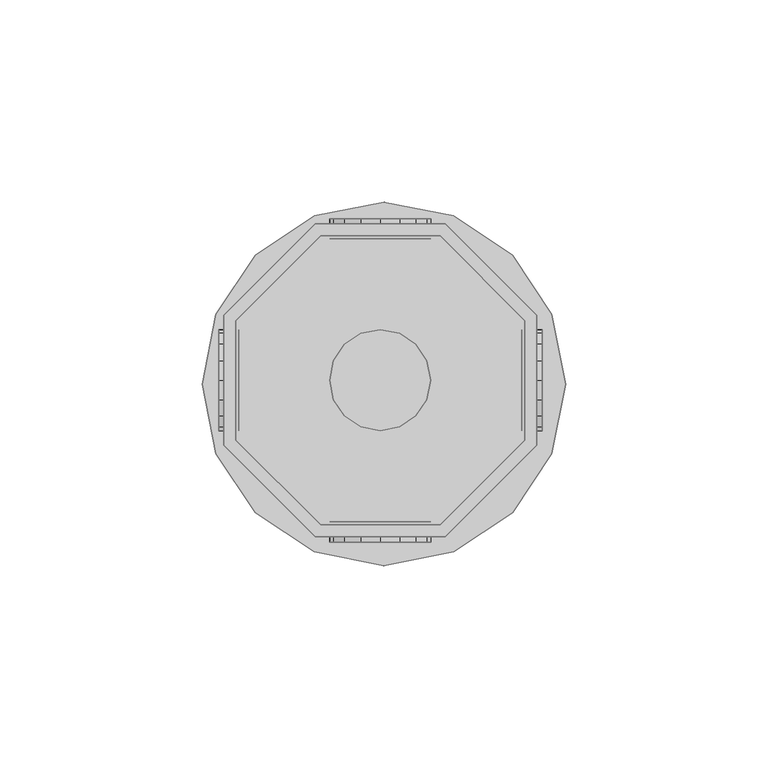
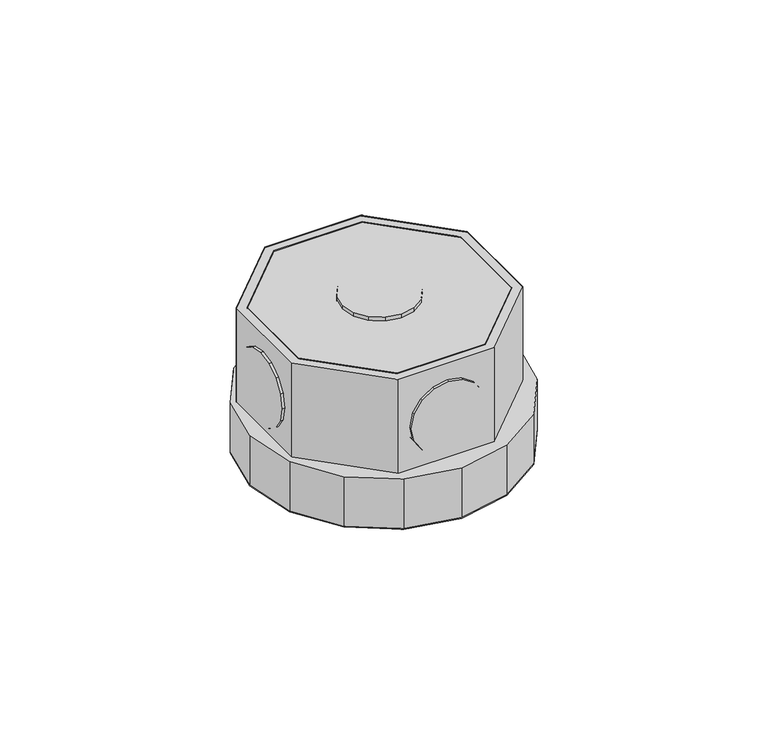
"""IFC4 building model written with IfcOpenShell, lengths in millimetres: light fixture geometry,  212341 :  212341."""

from ifc_helpers import new_model, si_unit, origin, place, context, project, spatial, triangles, source, transform, mapped, element, save


def light_fixture_5e0c478c(model_context):
    return source(origin(), model_context, "Body", "Tessellation", [
        triangles([(13964.9999176, 12407.9996063, 2924.5999741), (13935.4005615, 12407.9996063, 2975.400071), (13935.4005615, 12407.9996063, 2924.5999741), (13964.9999176, 12407.9996063, 2975.400071), (13966.1998444, 12333.4995026, 2924.5999741), (13934.0994781, 12333.4995026, 2975.400071), (13934.0994781, 12333.4995026, 2924.5999741), (13966.1998444, 12333.4995026, 2975.400071), (13914.3995178, 12386.9997253, 2975.400071), (13914.3995178, 12386.9997253, 2924.5999741), (13988.8996216, 12356.2004425, 2924.5999741), (13988.8996216, 12356.2004425, 2975.400071), (13914.3995178, 12357.4003693, 2975.400071), (13914.3995178, 12357.4003693, 2924.5999741), (13988.8996216, 12388.299646, 2924.5999741), (13988.8996216, 12388.299646, 2975.400071), (13935.4005615, 12336.5004822, 2975.400071), (13935.4005615, 12336.5004822, 2924.5999741), (13966.1998444, 12410.9994232, 2924.5999741), (13966.1998444, 12410.9994232, 2975.400071), (13964.9999176, 12336.5004822, 2924.5999741), (13964.9999176, 12336.5004822, 2975.400071), (13934.0994781, 12410.9994232, 2975.400071), (13934.0994781, 12410.9994232, 2924.5999741), (13985.8998047, 12357.4003693, 2924.5999741), (13985.8998047, 12357.4003693, 2975.400071), (13911.3997009, 12388.299646, 2975.400071), (13911.3997009, 12388.299646, 2924.5999741), (13911.3997009, 12356.2004425, 2975.400071), (13985.8998047, 12386.9997253, 2975.400071), (13985.8998047, 12386.9997253, 2924.5999741), (13911.3997009, 12356.2004425, 2924.5999741), (13914.3995178, 12357.4003693, 2972.3999634), (13935.4005615, 12336.5004822, 2972.3999634), (13964.9999176, 12336.5004822, 2972.3999634), (13985.8998047, 12357.4003693, 2972.3999634), (13985.8998047, 12386.9997253, 2972.3999634), (13964.9999176, 12407.9996063, 2972.3999634), (13935.4005615, 12407.9996063, 2972.3999634), (13914.3995178, 12386.9997253, 2972.3999634), (13911.3997009, 12388.299646, 2942.4000504), (13934.0994781, 12410.9994232, 2942.4000504), (13966.1998444, 12410.9994232, 2942.4000504), (13988.8996216, 12388.299646, 2942.4000504), (13988.8996216, 12356.2004425, 2942.4000504), (13966.1998444, 12333.4995026, 2942.4000504), (13934.0994781, 12333.4995026, 2942.4000504), (13911.3997009, 12356.2004425, 2942.4000504), (13933.7994965, 12329.7997284, 2942.4000504), (13909.4998169, 12354.1005707, 2942.4000504), (13919.2003876, 12339.5002991, 2942.4000504), (13906.1000244, 12371.2995209, 2942.4000504), (13909.4998169, 12388.5996277, 2942.4000504), (13919.2003876, 12403.1998993, 2942.4000504), (13933.7994965, 12412.90047, 2942.4000504), (13951.0996033, 12416.3002625, 2942.4000504), (13968.2997162, 12412.90047, 2942.4000504), (13992.6005585, 12388.5996277, 2942.4000504), (13982.8999878, 12403.1998993, 2942.4000504), (13951.0996033, 12326.299942, 2942.4000504), (13968.2997162, 12329.7997284, 2942.4000504), (13982.8999878, 12339.5002991, 2942.4000504), (13992.6005585, 12354.1005707, 2942.4000504), (13996.1003448, 12371.2995209, 2942.4000504), (13909.4998169, 12354.1005707, 2924.5999741), (13933.7994965, 12329.7997284, 2924.5999741), (13919.2003876, 12339.5002991, 2924.5999741), (13906.1000244, 12371.2995209, 2924.5999741), (13909.4998169, 12388.5996277, 2924.5999741), (13919.2003876, 12403.1998993, 2924.5999741), (13933.7994965, 12412.90047, 2924.5999741), (13951.0996033, 12416.3002625, 2924.5999741), (13968.2997162, 12412.90047, 2924.5999741), (13992.6005585, 12388.5996277, 2924.5999741), (13982.8999878, 12403.1998993, 2924.5999741), (13951.0996033, 12326.299942, 2924.5999741), (13968.2997162, 12329.7997284, 2924.5999741), (13982.8999878, 12339.5002991, 2924.5999741), (13992.6005585, 12354.1005707, 2924.5999741), (13996.1003448, 12371.2995209, 2924.5999741), (13938.6003662, 12412.2005127, 2952.6000092), (13945.3999512, 12412.2005127, 2945.9001274), (13941.3002014, 12412.2005127, 2948.5999626), (13937.7004211, 12412.2005127, 2957.4000069), (13950.1996582, 12412.2005127, 2944.8998978), (13938.6003662, 12412.2005127, 2962.2000046), (13955.000528, 12412.2005127, 2945.9001274), (13941.3002014, 12412.2005127, 2966.2000511), (13959.0002838, 12412.2005127, 2948.5999626), (13945.3999512, 12412.2005127, 2968.8998863), (13961.700119, 12412.2005127, 2952.6000092), (13950.1996582, 12412.2005127, 2969.900116), (13962.700058, 12412.2005127, 2957.4000069), (13955.000528, 12412.2005127, 2968.8998863), (13961.700119, 12412.2005127, 2962.2000046), (13959.0002838, 12412.2005127, 2966.2000511), (13945.3999512, 12407.1996552, 2945.9001274), (13938.6003662, 12407.1996552, 2952.6000092), (13941.3002014, 12407.1996552, 2948.5999626), (13950.1996582, 12407.1996552, 2944.8998978), (13937.7004211, 12407.1996552, 2957.4000069), (13955.000528, 12407.1996552, 2945.9001274), (13938.6003662, 12407.1996552, 2962.2000046), (13959.0002838, 12407.1996552, 2948.5999626), (13941.3002014, 12407.1996552, 2966.2000511), (13945.3999512, 12407.1996552, 2968.8998863), (13961.700119, 12407.1996552, 2952.6000092), (13950.1996582, 12407.1996552, 2969.900116), (13962.700058, 12407.1996552, 2957.4000069), (13955.000528, 12407.1996552, 2968.8998863), (13961.700119, 12407.1996552, 2962.2000046), (13959.0002838, 12407.1996552, 2966.2000511), (13938.6003662, 12337.2004395, 2952.6000092), (13945.3999512, 12337.2004395, 2945.9001274), (13941.3002014, 12337.2004395, 2948.5999626), (13937.7004211, 12337.2004395, 2957.4000069), (13950.1996582, 12337.2004395, 2944.8998978), (13938.6003662, 12337.2004395, 2962.2000046), (13955.000528, 12337.2004395, 2945.9001274), (13941.3002014, 12337.2004395, 2966.2000511), (13959.0002838, 12337.2004395, 2948.5999626), (13945.3999512, 12337.2004395, 2968.8998863), (13961.700119, 12337.2004395, 2952.6000092), (13950.1996582, 12337.2004395, 2969.900116), (13962.700058, 12337.2004395, 2957.4000069), (13955.000528, 12337.2004395, 2968.8998863), (13961.700119, 12337.2004395, 2962.2000046), (13959.0002838, 12337.2004395, 2966.2000511), (13945.3999512, 12332.1995819, 2945.9001274), (13938.6003662, 12332.1995819, 2952.6000092), (13941.3002014, 12332.1995819, 2948.5999626), (13950.1996582, 12332.1995819, 2944.8998978), (13937.7004211, 12332.1995819, 2957.4000069), (13955.000528, 12332.1995819, 2945.9001274), (13938.6003662, 12332.1995819, 2962.2000046), (13959.0002838, 12332.1995819, 2948.5999626), (13941.3002014, 12332.1995819, 2966.2000511), (13945.3999512, 12332.1995819, 2968.8998863), (13961.700119, 12332.1995819, 2952.6000092), (13950.1996582, 12332.1995819, 2969.900116), (13962.700058, 12332.1995819, 2957.4000069), (13955.000528, 12332.1995819, 2968.8998863), (13961.700119, 12332.1995819, 2962.2000046), (13959.0002838, 12332.1995819, 2966.2000511), (13915.199469, 12367.3997589, 2945.9001274), (13915.199469, 12360.7001678, 2952.6000092), (13915.199469, 12363.4000031, 2948.5999626), (13915.199469, 12372.1994659, 2944.8998978), (13915.199469, 12359.7002289, 2957.4000069), (13915.199469, 12377.0003357, 2945.9001274), (13915.199469, 12360.7001678, 2962.2000046), (13915.199469, 12381.1000854, 2948.5999626), (13915.199469, 12363.4000031, 2966.2000511), (13915.199469, 12367.3997589, 2968.8998863), (13915.199469, 12383.7999207, 2952.6000092), (13915.199469, 12372.1994659, 2969.900116), (13915.199469, 12384.6998657, 2957.4000069), (13915.199469, 12377.0003357, 2968.8998863), (13915.199469, 12383.7999207, 2962.2000046), (13915.199469, 12381.1000854, 2966.2000511), (13910.1997742, 12360.7001678, 2952.6000092), (13910.1997742, 12367.3997589, 2945.9001274), (13910.1997742, 12363.4000031, 2948.5999626), (13910.1997742, 12359.7002289, 2957.4000069), (13910.1997742, 12372.1994659, 2944.8998978), (13910.1997742, 12360.7001678, 2962.2000046), (13910.1997742, 12377.0003357, 2945.9001274), (13910.1997742, 12363.4000031, 2966.2000511), (13910.1997742, 12381.1000854, 2948.5999626), (13910.1997742, 12367.3997589, 2968.8998863), (13910.1997742, 12383.7999207, 2952.6000092), (13910.1997742, 12372.1994659, 2969.900116), (13910.1997742, 12384.6998657, 2957.4000069), (13910.1997742, 12377.0003357, 2968.8998863), (13910.1997742, 12383.7999207, 2962.2000046), (13910.1997742, 12381.1000854, 2966.2000511), (13990.1995422, 12367.3997589, 2945.9001274), (13990.1995422, 12360.7001678, 2952.6000092), (13990.1995422, 12363.4000031, 2948.5999626), (13990.1995422, 12372.1994659, 2944.8998978), (13990.1995422, 12359.7002289, 2957.4000069), (13990.1995422, 12377.0003357, 2945.9001274), (13990.1995422, 12360.7001678, 2962.2000046), (13990.1995422, 12381.1000854, 2948.5999626), (13990.1995422, 12363.4000031, 2966.2000511), (13990.1995422, 12367.3997589, 2968.8998863), (13990.1995422, 12383.7999207, 2952.6000092), (13990.1995422, 12372.1994659, 2969.900116), (13990.1995422, 12384.6998657, 2957.4000069), (13990.1995422, 12377.0003357, 2968.8998863), (13990.1995422, 12383.7999207, 2962.2000046), (13990.1995422, 12381.1000854, 2966.2000511), (13985.1998474, 12360.7001678, 2952.6000092), (13985.1998474, 12367.3997589, 2945.9001274), (13985.1998474, 12363.4000031, 2948.5999626), (13985.1998474, 12359.7002289, 2957.4000069), (13985.1998474, 12372.1994659, 2944.8998978), (13985.1998474, 12360.7001678, 2962.2000046), (13985.1998474, 12377.0003357, 2945.9001274), (13985.1998474, 12363.4000031, 2966.2000511), (13985.1998474, 12381.1000854, 2948.5999626), (13985.1998474, 12367.3997589, 2968.8998863), (13985.1998474, 12383.7999207, 2952.6000092), (13985.1998474, 12372.1994659, 2969.900116), (13985.1998474, 12384.6998657, 2957.4000069), (13985.1998474, 12377.0003357, 2968.8998863), (13985.1998474, 12383.7999207, 2962.2000046), (13985.1998474, 12381.1000854, 2966.2000511), (13945.3999512, 12360.7001678, 2976.9999733), (13938.6003662, 12367.3997589, 2976.9999733), (13941.3002014, 12363.4000031, 2976.9999733), (13937.7004211, 12372.1994659, 2976.9999733), (13950.1996582, 12359.7002289, 2976.9999733), (13938.6003662, 12377.0003357, 2976.9999733), (13955.000528, 12360.7001678, 2976.9999733), (13941.3002014, 12381.1000854, 2976.9999733), (13959.0002838, 12363.4000031, 2976.9999733), (13945.3999512, 12383.7999207, 2976.9999733), (13961.700119, 12367.3997589, 2976.9999733), (13950.1996582, 12384.6998657, 2976.9999733), (13962.700058, 12372.1994659, 2976.9999733), (13955.000528, 12383.7999207, 2976.9999733), (13961.700119, 12377.0003357, 2976.9999733), (13959.0002838, 12381.1000854, 2976.9999733), (13938.6003662, 12367.3997589, 2971.9999878), (13945.3999512, 12360.7001678, 2971.9999878), (13941.3002014, 12363.4000031, 2971.9999878), (13937.7004211, 12372.1994659, 2971.9999878), (13950.1996582, 12359.7002289, 2971.9999878), (13938.6003662, 12377.0003357, 2971.9999878), (13955.000528, 12360.7001678, 2971.9999878), (13941.3002014, 12381.1000854, 2971.9999878), (13959.0002838, 12363.4000031, 2971.9999878), (13945.3999512, 12383.7999207, 2971.9999878), (13961.700119, 12367.3997589, 2971.9999878), (13950.1996582, 12384.6998657, 2971.9999878), (13962.700058, 12372.1994659, 2971.9999878), (13955.000528, 12383.7999207, 2971.9999878), (13961.700119, 12377.0003357, 2971.9999878), (13959.0002838, 12381.1000854, 2971.9999878)], [[1, 2, 3], [2, 1, 4], [5, 6, 7], [6, 5, 8], [3, 9, 10], [9, 3, 2], [11, 8, 5], [8, 11, 12], [10, 13, 14], [13, 10, 9], [15, 12, 11], [12, 15, 16], [14, 17, 18], [17, 14, 13], [19, 16, 15], [16, 19, 20], [17, 21, 18], [21, 17, 22], [23, 19, 24], [19, 23, 20], [22, 25, 21], [25, 22, 26], [27, 24, 28], [24, 27, 23], [6, 13, 29], [29, 13, 27], [27, 13, 9], [27, 9, 23], [23, 9, 2], [23, 2, 4], [23, 4, 20], [20, 4, 30], [8, 17, 6], [6, 17, 13], [17, 8, 22], [12, 22, 8], [22, 12, 26], [30, 26, 12], [16, 30, 12], [20, 30, 16], [30, 1, 31], [1, 30, 4], [6, 32, 7], [32, 6, 29], [32, 14, 7], [28, 14, 32], [14, 28, 10], [24, 10, 28], [10, 24, 3], [1, 3, 24], [19, 1, 24], [31, 1, 19], [7, 18, 5], [14, 18, 7], [5, 18, 21], [5, 21, 11], [11, 21, 25], [11, 25, 31], [11, 31, 15], [15, 31, 19], [26, 31, 25], [31, 26, 30], [29, 28, 32], [28, 29, 27], [17, 33, 34], [33, 17, 13], [35, 17, 34], [17, 35, 22], [36, 22, 35], [22, 36, 26], [37, 26, 36], [26, 37, 30], [38, 30, 37], [30, 38, 4], [2, 38, 39], [38, 2, 4], [17, 9, 13], [9, 17, 22], [9, 22, 2], [2, 22, 26], [2, 26, 4], [4, 26, 30], [13, 40, 33], [40, 13, 9], [40, 34, 33], [35, 34, 40], [35, 40, 39], [35, 39, 36], [36, 39, 38], [36, 38, 37], [9, 39, 40], [39, 9, 2], [24, 41, 28], [41, 24, 42], [19, 42, 24], [42, 19, 43], [44, 19, 15], [19, 44, 43], [45, 15, 11], [15, 45, 44], [46, 11, 5], [11, 46, 45], [47, 5, 7], [5, 47, 46], [32, 47, 7], [47, 32, 48], [28, 48, 32], [48, 28, 41], [49, 50, 51], [48, 50, 49], [50, 48, 52], [41, 52, 48], [52, 41, 53], [53, 41, 54], [42, 54, 41], [54, 42, 55], [55, 42, 43], [55, 43, 56], [56, 43, 57], [57, 43, 44], [57, 44, 58], [57, 58, 59], [47, 49, 60], [49, 47, 48], [47, 60, 46], [61, 46, 60], [46, 61, 62], [46, 62, 45], [45, 62, 63], [44, 45, 63], [44, 63, 64], [44, 64, 58], [65, 66, 67], [66, 65, 32], [68, 32, 65], [32, 68, 28], [28, 68, 69], [70, 28, 69], [28, 70, 24], [71, 24, 70], [19, 24, 71], [19, 71, 72], [73, 19, 72], [19, 73, 15], [74, 15, 73], [74, 73, 75], [76, 66, 7], [32, 7, 66], [5, 76, 7], [76, 5, 77], [77, 5, 78], [11, 78, 5], [78, 11, 79], [79, 11, 15], [79, 15, 80], [80, 15, 74], [57, 75, 73], [75, 57, 59], [56, 73, 72], [73, 56, 57], [55, 72, 71], [72, 55, 56], [54, 71, 70], [71, 54, 55], [53, 70, 69], [70, 53, 54], [52, 69, 68], [69, 52, 53], [50, 68, 65], [68, 50, 52], [51, 65, 67], [65, 51, 50], [66, 51, 67], [51, 66, 49], [76, 49, 66], [49, 76, 60], [77, 60, 76], [60, 77, 61], [78, 61, 77], [61, 78, 62], [79, 62, 78], [62, 79, 63], [80, 63, 79], [63, 80, 64], [75, 58, 74], [58, 75, 59], [74, 64, 80], [64, 74, 58], [81, 82, 83], [82, 81, 84], [85, 82, 84], [85, 84, 86], [87, 85, 86], [87, 86, 88], [87, 88, 89], [89, 88, 90], [89, 90, 91], [91, 90, 92], [91, 92, 93], [93, 92, 94], [93, 94, 95], [95, 94, 96], [97, 98, 99], [98, 97, 100], [101, 98, 100], [101, 100, 102], [103, 101, 102], [103, 102, 104], [103, 104, 105], [105, 104, 106], [106, 104, 107], [106, 107, 108], [108, 107, 109], [108, 109, 110], [110, 109, 111], [110, 111, 112], [87, 104, 102], [104, 87, 89], [85, 102, 100], [102, 85, 87], [82, 100, 97], [100, 82, 85], [83, 97, 99], [97, 83, 82], [98, 83, 99], [83, 98, 81], [101, 81, 98], [81, 101, 84], [103, 84, 101], [84, 103, 86], [105, 86, 103], [86, 105, 88], [106, 88, 105], [88, 106, 90], [108, 90, 106], [90, 108, 92], [110, 92, 108], [92, 110, 94], [112, 94, 110], [94, 112, 96], [95, 112, 111], [112, 95, 96], [93, 111, 109], [111, 93, 95], [89, 107, 104], [107, 89, 91], [91, 109, 107], [109, 91, 93], [113, 114, 115], [114, 113, 116], [117, 114, 116], [117, 116, 118], [119, 117, 118], [119, 118, 120], [119, 120, 121], [121, 120, 122], [121, 122, 123], [123, 122, 124], [123, 124, 125], [125, 124, 126], [125, 126, 127], [127, 126, 128], [129, 130, 131], [130, 129, 132], [133, 130, 132], [133, 132, 134], [135, 133, 134], [135, 134, 136], [135, 136, 137], [137, 136, 138], [138, 136, 139], [138, 139, 140], [140, 139, 141], [140, 141, 142], [142, 141, 143], [142, 143, 144], [119, 136, 134], [136, 119, 121], [117, 134, 132], [134, 117, 119], [114, 132, 129], [132, 114, 117], [115, 129, 131], [129, 115, 114], [130, 115, 131], [115, 130, 113], [133, 113, 130], [113, 133, 116], [135, 116, 133], [116, 135, 118], [137, 118, 135], [118, 137, 120], [138, 120, 137], [120, 138, 122], [140, 122, 138], [122, 140, 124], [142, 124, 140], [124, 142, 126], [144, 126, 142], [126, 144, 128], [127, 144, 143], [144, 127, 128], [125, 143, 141], [143, 125, 127], [121, 139, 136], [139, 121, 123], [123, 141, 139], [141, 123, 125], [145, 146, 147], [146, 145, 148], [149, 146, 148], [149, 148, 150], [151, 149, 150], [151, 150, 152], [151, 152, 153], [153, 152, 154], [154, 152, 155], [154, 155, 156], [156, 155, 157], [156, 157, 158], [158, 157, 159], [158, 159, 160], [161, 162, 163], [162, 161, 164], [165, 162, 164], [165, 164, 166], [167, 165, 166], [167, 166, 168], [169, 167, 168], [169, 168, 170], [169, 170, 171], [171, 170, 172], [171, 172, 173], [173, 172, 174], [173, 174, 175], [175, 174, 176], [158, 176, 174], [176, 158, 160], [156, 174, 172], [174, 156, 158], [154, 172, 170], [172, 154, 156], [153, 170, 168], [170, 153, 154], [151, 168, 166], [168, 151, 153], [149, 166, 164], [166, 149, 151], [146, 164, 161], [164, 146, 149], [147, 161, 163], [161, 147, 146], [162, 147, 163], [147, 162, 145], [165, 145, 162], [145, 165, 148], [167, 148, 165], [148, 167, 150], [169, 150, 167], [150, 169, 152], [171, 152, 169], [152, 171, 155], [173, 155, 171], [155, 173, 157], [176, 159, 175], [159, 176, 160], [175, 157, 173], [157, 175, 159], [177, 178, 179], [178, 177, 180], [181, 178, 180], [181, 180, 182], [183, 181, 182], [183, 182, 184], [183, 184, 185], [185, 184, 186], [186, 184, 187], [186, 187, 188], [188, 187, 189], [188, 189, 190], [190, 189, 191], [190, 191, 192], [193, 194, 195], [194, 193, 196], [197, 194, 196], [197, 196, 198], [199, 197, 198], [199, 198, 200], [201, 199, 200], [201, 200, 202], [201, 202, 203], [203, 202, 204], [203, 204, 205], [205, 204, 206], [205, 206, 207], [207, 206, 208], [190, 208, 206], [208, 190, 192], [188, 206, 204], [206, 188, 190], [186, 204, 202], [204, 186, 188], [185, 202, 200], [202, 185, 186], [183, 200, 198], [200, 183, 185], [181, 198, 196], [198, 181, 183], [178, 196, 193], [196, 178, 181], [179, 193, 195], [193, 179, 178], [194, 179, 195], [179, 194, 177], [197, 177, 194], [177, 197, 180], [199, 180, 197], [180, 199, 182], [201, 182, 199], [182, 201, 184], [203, 184, 201], [184, 203, 187], [205, 187, 203], [187, 205, 189], [208, 191, 207], [191, 208, 192], [207, 189, 205], [189, 207, 191], [209, 210, 211], [212, 210, 209], [212, 209, 213], [214, 212, 213], [214, 213, 215], [216, 214, 215], [216, 215, 217], [216, 217, 218], [218, 217, 219], [218, 219, 220], [220, 219, 221], [220, 221, 222], [222, 221, 223], [222, 223, 224], [225, 226, 227], [226, 225, 228], [229, 226, 228], [229, 228, 230], [231, 229, 230], [231, 230, 232], [231, 232, 233], [233, 232, 234], [233, 234, 235], [235, 234, 236], [235, 236, 237], [237, 236, 238], [237, 238, 239], [239, 238, 240], [222, 240, 238], [240, 222, 224], [220, 238, 236], [238, 220, 222], [218, 236, 234], [236, 218, 220], [216, 234, 232], [234, 216, 218], [214, 232, 230], [232, 214, 216], [212, 230, 228], [230, 212, 214], [210, 228, 225], [228, 210, 212], [211, 225, 227], [225, 211, 210], [226, 211, 227], [211, 226, 209], [229, 209, 226], [209, 229, 213], [231, 213, 229], [213, 231, 215], [233, 215, 231], [215, 233, 217], [235, 217, 233], [217, 235, 219], [237, 219, 235], [219, 237, 221], [240, 223, 239], [223, 240, 224], [239, 221, 237], [221, 239, 223]], closed=False),
    ])


if __name__ == "__main__":
    model = new_model("IFC4")
    model_context = context("Model", 3, world=origin())
    ifc_project = project(units=[si_unit("LENGTHUNIT", "METRE", prefix="MILLI")], contexts=[model_context])
    site = spatial("IfcSite", under=ifc_project)
    building = spatial("IfcBuilding", under=site)
    placement = place(None, origin())
    light_fixture_shape = light_fixture_5e0c478c(model_context)
    element("IfcLightFixture", 1, ObjectType=" 212341 :  212341", at=placement, inside=building, context=model_context, shape_type="MappedRepresentation", body=[
        mapped(light_fixture_shape, transform((0.0, 0.0, 0.0), x_axis=(1.0, 0.0, 0.0), y_axis=(0.0, 1.0, 0.0), z_axis=(0.0, 0.0, 1.0))),
    ])
    save(model, "model.ifc")
